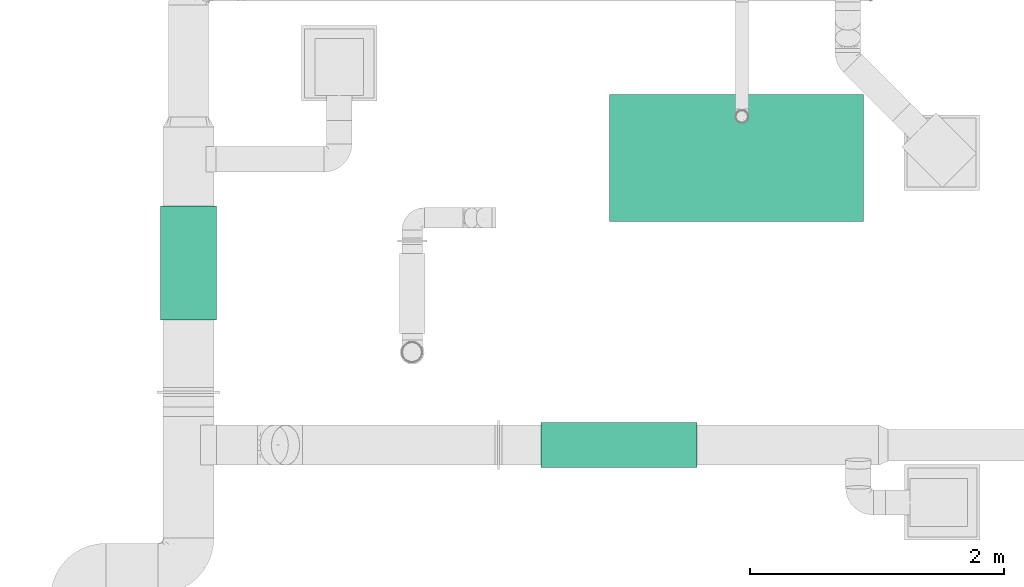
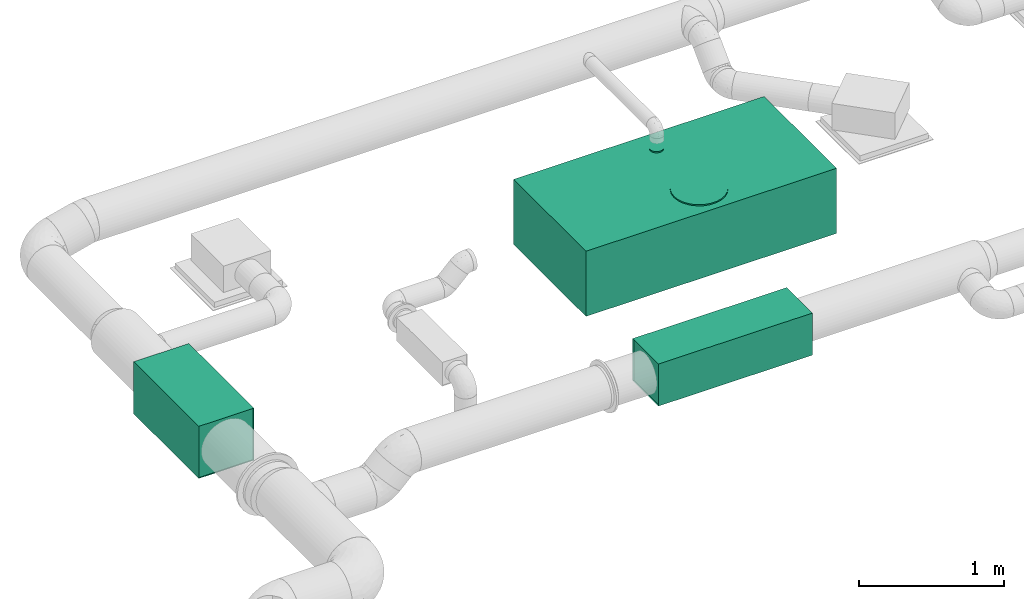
# One storey, part 8 of 16: 2 flow treatment devices, 1 flow fitting.
"""IFC2X3 building model written with IfcOpenShell, lengths in millimetres."""

import ifcopenshell
import ifcopenshell.guid

model = None  # the IFC model being written
_history = None  # IfcOwnerHistory: only IFC2X3 demands one
_inside = {}  # id of a spatial element -> (the spatial element, [elements in it])
_under = {}  # id of a project, library or spatial element -> (it, [spatial elements below it])
_declared = {}  # id of a project -> (the project, [libraries it declares])
_typed = {}  # id of a type object -> (the type object, [elements of that type])
_made_of = {}  # id of a material, layer set ... -> (it, [elements and type objects made of it])


def new_model(schema):
    """Start an empty IFC model of exactly this schema.

    Asked for "IFC4X3", IfcOpenShell would pick the latest addendum, in which some entities
    have other attributes; the version numbers below select the first issue.
    IFC2X3 requires an IfcOwnerHistory on every rooted entity: one is made here for all.
    """
    global model, _history
    if schema == "IFC4X3":
        model = ifcopenshell.file(schema_version=(4, 3, 0, 0))
    else:
        model = ifcopenshell.file(schema=schema)
    _inside.clear()
    _under.clear()
    _declared.clear()
    _typed.clear()
    _made_of.clear()
    _history = None
    if model.schema == "IFC2X3":
        org = make("IfcOrganization", Name="unknown")
        user = make(
            "IfcPersonAndOrganization",
            ThePerson=make("IfcPerson", FamilyName="unknown"),
            TheOrganization=org,
        )
        app = make(
            "IfcApplication",
            ApplicationDeveloper=org,
            Version="unknown",
            ApplicationFullName="unknown",
            ApplicationIdentifier="unknown",
        )
        _history = make(
            "IfcOwnerHistory",
            OwningUser=user,
            OwningApplication=app,
            ChangeAction="ADDED",
            CreationDate=0,
        )
    return model


def make(cls, **values):
    """One entity of the class cls with the attributes given. An attribute that is None is left unset."""
    return model.create_entity(
        cls, **{name: value for name, value in values.items() if value is not None}
    )


def entity(cls, *values):
    """Any entity or typed value of the class cls, its attributes in the order of the schema. None: left unset."""
    e = model.create_entity(cls)
    for i, value in enumerate(values):
        if value is not None:
            e[i] = value
    return e


def rooted(cls, **values):
    """An entity with a GlobalId (a new one), such as an element, a storey or a relation."""
    return make(cls, GlobalId=ifcopenshell.guid.new(), OwnerHistory=_history, **values)


def si_unit(unit_type, name, prefix=None):
    """IfcSIUnit, for example si_unit("LENGTHUNIT", "METRE", prefix="MILLI")."""
    return make("IfcSIUnit", UnitType=unit_type, Prefix=prefix, Name=name)


def converted_unit(unit_type, name, factor, base, dimensions=None, offset=None):
    """IfcConversionBasedUnit, such as the inch: factor (a typed value) times the base unit."""
    return make(
        "IfcConversionBasedUnit"
        if offset is None
        else "IfcConversionBasedUnitWithOffset",
        ConversionOffset=offset,
        Dimensions=None
        if dimensions is None
        else entity("IfcDimensionalExponents", *dimensions),
        UnitType=unit_type,
        Name=name,
        ConversionFactor=make(
            "IfcMeasureWithUnit", ValueComponent=factor, UnitComponent=base
        ),
    )


def derived_unit(unit_type, elements):
    """IfcDerivedUnit: a product of units, each with its exponent."""
    return make(
        "IfcDerivedUnit",
        Elements=[
            make("IfcDerivedUnitElement", Unit=unit, Exponent=power)
            for unit, power in elements
        ],
        UnitType=unit_type,
    )


def assignment(units):
    """IfcUnitAssignment: the units of a project."""
    return None if units is None else make("IfcUnitAssignment", Units=units)


def point(xyz):
    """IfcCartesianPoint."""
    return None if xyz is None else make("IfcCartesianPoint", Coordinates=xyz)


def direction(xyz):
    """IfcDirection."""
    return None if xyz is None else make("IfcDirection", DirectionRatios=xyz)


def frame(location, z_axis=None, x_axis=None):
    """IfcAxis2Placement3D, a coordinate frame: its origin and axes. An axis left out is left unset."""
    return make(
        "IfcAxis2Placement3D",
        Location=point(location),
        Axis=direction(z_axis),
        RefDirection=direction(x_axis),
    )


def origin_with_axes():
    """The frame at (0, 0, 0) with the z axis (0, 0, 1) and the x axis (1, 0, 0) written out."""
    return frame((0.0, 0.0, 0.0), z_axis=(0.0, 0.0, 1.0), x_axis=(1.0, 0.0, 0.0))


def place(relative_to, where):
    """IfcLocalPlacement: puts the frame where relative to a parent placement (None: the world)."""
    return make(
        "IfcLocalPlacement", PlacementRelTo=relative_to, RelativePlacement=where
    )


def context(
    kind, dimensions, precision=None, world=None, true_north=None, identifier=None
):
    """IfcGeometricRepresentationContext, for example the 3D "Model" context."""
    return make(
        "IfcGeometricRepresentationContext",
        ContextIdentifier=identifier,
        ContextType=kind,
        CoordinateSpaceDimension=dimensions,
        Precision=precision,
        WorldCoordinateSystem=world,
        TrueNorth=true_north,
    )


def subcontext(parent, identifier, kind, view, scale=None):
    """IfcGeometricRepresentationSubContext, for example "Body" below "Model"."""
    return make(
        "IfcGeometricRepresentationSubContext",
        ContextIdentifier=identifier,
        ContextType=kind,
        ParentContext=parent,
        TargetScale=scale,
        TargetView=view,
    )


def project(units=None, contexts=None):
    """IfcProject with its units and contexts."""
    return rooted(
        "IfcProject",
        Name="project",
        RepresentationContexts=contexts,
        UnitsInContext=assignment(units),
    )


def spatial(cls, under=None, at=None, **own):
    """A site, building, storey or space (cls), placed at a placement, below another one or the project."""
    s = rooted(cls, ObjectPlacement=at, **own)
    if under is not None:
        _under.setdefault(under.id(), (under, []))[1].append(s)
    return s


def faces_of(points, faces, orient=None, outer=None):
    """IfcFace entities. A face is a list of loops; a loop is a list of indices into points, from 0.

    orient and outer hold one flag for each loop. By default every Orientation is true, the
    first loop of a face is its IfcFaceOuterBound and the others are IfcFaceBound.
    """
    made = []
    for i, loops in enumerate(faces):
        bounds = []
        for j, loop in enumerate(loops):
            is_outer = j == 0 if outer is None else outer[i][j]
            bounds.append(
                make(
                    "IfcFaceOuterBound" if is_outer else "IfcFaceBound",
                    Bound=make("IfcPolyLoop", Polygon=[points[k] for k in loop]),
                    Orientation=True if orient is None else orient[i][j],
                )
            )
        made.append(make("IfcFace", Bounds=bounds))
    return made


def open_shell(faces, orient=None, outer=None):
    """The faces of one IfcOpenShell. surface_model builds it on its shared points."""
    return ("IfcOpenShell", faces, orient, outer)


def surface_model(cls, points, shells):
    """IfcFaceBasedSurfaceModel or IfcShellBasedSurfaceModel (cls): surfaces that need not close."""
    shared = [point(p) for p in points]
    made = [make(c, CfsFaces=faces_of(shared, fs, o, b)) for c, fs, o, b in shells]
    if cls == "IfcFaceBasedSurfaceModel":
        return make(cls, FbsmFaces=made)
    return make(cls, SbsmBoundary=made)


def shape(context_of_items, identifier, shape_type, items):
    """IfcShapeRepresentation: the items that make up one representation, for example the "Body"."""
    return make(
        "IfcShapeRepresentation",
        ContextOfItems=context_of_items,
        RepresentationIdentifier=identifier,
        RepresentationType=shape_type,
        Items=items,
    )


def source(mapping_origin, context_of_items, identifier, shape_type, items):
    """IfcRepresentationMap: a shape defined once, which mapped items show again and again."""
    return make(
        "IfcRepresentationMap",
        MappingOrigin=mapping_origin,
        MappedRepresentation=shape(context_of_items, identifier, shape_type, items),
    )


def transform(
    local_origin,
    x_axis=None,
    y_axis=None,
    z_axis=None,
    scale=None,
    scale2=None,
    scale3=None,
    uniform=True,
):
    """IfcCartesianTransformationOperator3D, or its non-uniform kind. x_axis, y_axis, z_axis: its Axis1, 2, 3."""
    if uniform:
        return make(
            "IfcCartesianTransformationOperator3D",
            Axis1=direction(x_axis),
            Axis2=direction(y_axis),
            LocalOrigin=point(local_origin),
            Scale=scale,
            Axis3=direction(z_axis),
        )
    return make(
        "IfcCartesianTransformationOperator3DnonUniform",
        Axis1=direction(x_axis),
        Axis2=direction(y_axis),
        LocalOrigin=point(local_origin),
        Scale=scale,
        Axis3=direction(z_axis),
        Scale2=scale2,
        Scale3=scale3,
    )


def mapped(mapping_source, mapping_target):
    """IfcMappedItem: shows the shape of a source again, moved by a transform."""
    return make(
        "IfcMappedItem", MappingSource=mapping_source, MappingTarget=mapping_target
    )


def made_of(thing, what):
    """Note that an element or type object is made of a material, layer set ...; save() writes the relation."""
    if what is not None:
        _made_of.setdefault(what.id(), (what, []))[1].append(thing)
    return thing


def type_object(cls, material=None, **own):
    """A type object (cls), such as IfcWallType, which elements share."""
    return made_of(rooted(cls, **own), material)


def element(
    cls,
    number,
    at=None,
    inside=None,
    cuts=None,
    type_object=None,
    material=None,
    context=None,
    identifier="Body",
    shape_type=None,
    held_by="IfcProductDefinitionShape",
    body=None,
    shapes=None,
    **own,
):
    """One element of the class cls, such as IfcWall. Its Tag is "e" and its number.

    at: its placement. inside: the storey or other place that contains it. cuts: it is an
    opening in that element (IfcRelVoidsElement). A single representation is given by context,
    identifier, shape_type and body (its items); several are given by shapes. held_by: the class
    of the entity that holds the representations. save() writes the other relations.
    """
    e = rooted(cls, Tag="e%d" % number, ObjectPlacement=at, **own)
    if body is not None:
        shapes = [shape(context, identifier, shape_type, body)]
    if shapes is not None:
        e.Representation = make(held_by, Representations=shapes)
    if inside is not None:
        _inside.setdefault(inside.id(), (inside, []))[1].append(e)
    if cuts is not None:
        rooted(
            "IfcRelVoidsElement", RelatingBuildingElement=cuts, RelatedOpeningElement=e
        )
    if type_object is not None:
        _typed.setdefault(type_object.id(), (type_object, []))[1].append(e)
    return made_of(e, material)


def aggregate(whole, parts):
    """IfcRelAggregates: a whole, such as a stair, and the parts it consists of."""
    return rooted("IfcRelAggregates", RelatingObject=whole, RelatedObjects=parts)


def save(model, path):
    """Write the relations noted so far, then the file.

    IfcRelAggregates (storeys below a building ...), IfcRelContainedInSpatialStructure (elements
    in a storey), IfcRelDefinesByType, IfcRelAssociatesMaterial and IfcRelDeclares: one each for
    every whole, place, type object, material and project.
    """
    for whole, parts in _under.values():
        aggregate(whole, parts)
    for where, things in _inside.values():
        rooted(
            "IfcRelContainedInSpatialStructure",
            RelatedElements=things,
            RelatingStructure=where,
        )
    for kind, things in _typed.values():
        rooted("IfcRelDefinesByType", RelatedObjects=things, RelatingType=kind)
    for what, things in _made_of.values():
        rooted("IfcRelAssociatesMaterial", RelatedObjects=things, RelatingMaterial=what)
    for by, libraries in _declared.values():
        rooted("IfcRelDeclares", RelatingContext=by, RelatedDefinitions=libraries)
    model.write(path)


model = new_model("IFC2X3")

# Units and contexts
model_context = context("Model", 3, precision=0.01, world=frame((0.0, 4.29681676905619e-09, 0.0)), true_north=direction((4.01073788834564e-13, 1.0)))
plan_context = context("Plan", 3, precision=0.01, world=frame((0.0, 4.29681676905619e-09, 0.0)), true_north=direction((4.01073788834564e-13, 1.0)))
body_context = subcontext(model_context, "Body", "Model", "MODEL_VIEW")
ifc_project = project(units=[converted_unit("PLANEANGLEUNIT", "DEGREE", entity("IfcPositiveLengthMeasure", 0.0174532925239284), si_unit("PLANEANGLEUNIT", "RADIAN"), dimensions=[0, 0, 0, 0, 0, 0, 0]), si_unit("AREAUNIT", "SQUARE_METRE"), si_unit("LENGTHUNIT", "METRE", prefix="MILLI"), si_unit("MASSUNIT", "GRAM", prefix="KILO"), si_unit("POWERUNIT", "WATT"), si_unit("PRESSUREUNIT", "PASCAL"), si_unit("FORCEUNIT", "NEWTON", prefix="KILO"), si_unit("ELECTRICVOLTAGEUNIT", "VOLT"), si_unit("ELECTRICCURRENTUNIT", "AMPERE"), si_unit("THERMODYNAMICTEMPERATUREUNIT", "DEGREE_CELSIUS"), si_unit("TIMEUNIT", "SECOND"), si_unit("VOLUMEUNIT", "CUBIC_METRE"), derived_unit("LINEARVELOCITYUNIT", [(si_unit("LENGTHUNIT", "METRE"), 1), (si_unit("TIMEUNIT", "SECOND"), -1)]), derived_unit("VOLUMETRICFLOWRATEUNIT", [(si_unit("VOLUMEUNIT", "CUBIC_METRE"), 1), (si_unit("TIMEUNIT", "SECOND"), -1)]), derived_unit("THERMALTRANSMITTANCEUNIT", [(si_unit("POWERUNIT", "WATT"), 1), (si_unit("THERMODYNAMICTEMPERATUREUNIT", "KELVIN"), -1), (si_unit("AREAUNIT", "SQUARE_METRE"), -1)]), derived_unit("SOUNDPRESSUREUNIT", [(si_unit("PRESSUREUNIT", "PASCAL"), 1)])], contexts=[model_context, plan_context])

# Site, building, storey
site_placement = place(None, frame((0.0, -4.29681676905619e-09, 0.0), z_axis=(0.0, 0.0, 1.0), x_axis=(1.0, 0.0, 0.0)))
site = spatial("IfcSite", under=ifc_project, at=site_placement, Name="ENGM", CompositionType="ELEMENT")
building_placement = place(site_placement, frame((0.0, 4.29681676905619e-09, 0.0), z_axis=(0.0, 0.0, 1.0), x_axis=(1.0, 0.0, 0.0)))
building = spatial("IfcBuilding", under=site, at=building_placement, Name="TH", CompositionType="ELEMENT")
storey_placement = place(building_placement, frame((0.0, 0.0, 210200.0), z_axis=(0.0, 0.0, 1.0), x_axis=(1.0, 0.0, 0.0)))
storey = spatial("IfcBuildingStorey", under=building, at=storey_placement, Name="Nivå F - 0,7 m", CompositionType="ELEMENT", Elevation=210200.0)

# Flow fitting
duct_fitting_type = type_object("IfcDuctFittingType", Name="+TH=360.030-AP9001-2000x1000x500", PredefinedType="BEND")
shared_shape_1 = source(origin_with_axes(), body_context, "Body", "SurfaceModel", [
    surface_model("IfcShellBasedSurfaceModel", [(2000.00002, 0.0, 540.0), (2000.00002, 1000.0, 540.0), (10.0, 1000.0, 540.0), (10.0, 0.0, 540.0), (10.0, 0.0, 0.0), (10.0, 1000.0, 0.0), (2000.00002, 1000.0, 0.0), (2000.00002, 0.0, 0.0), (0.0, 1000.0, 540.0), (0.0, 0.0, 540.0), (0.0, 0.0, 0.0), (0.0, 1000.0, 0.0), (1064.8935, 783.06681, 560.00001), (1039.8935, 776.36809, 560.00001), (1052.83443, 778.07177, 560.00001), (1052.83443, 874.66434, 560.00001), (1014.8935, 783.06681, 560.00001), (1083.19478, 801.36809, 560.00001), (1088.18976, 813.42717, 560.00001), (1089.8935, 826.36809, 560.00001), (1075.24883, 791.01276, 560.00001), (1088.18976, 839.30902, 560.00001), (1026.9525, 778.07177, 560.00001), (996.59222, 801.36809, 560.00001), (1004.53818, 791.01276, 560.00001), (991.59718, 813.42717, 560.00001), (989.8935, 826.36809, 560.00001), (1083.19478, 851.36809, 560.00001), (1075.24883, 861.72342, 560.00001), (1004.53818, 861.72342, 560.00001), (1064.8935, 869.66937, 560.00001), (1039.8935, 876.36809, 560.00001), (991.59718, 839.30902, 560.00001), (996.59222, 851.36809, 560.00001), (1014.8935, 869.66937, 560.00001), (1026.9525, 874.66434, 560.00001), (1052.83443, 874.66434, 550.0), (1004.53818, 861.72342, 550.0), (1039.8935, 876.36809, 550.0), (1075.24883, 861.72342, 550.0), (1064.8935, 869.66937, 550.0), (1083.19478, 851.36809, 550.0), (1088.18976, 839.30902, 550.0), (1014.8935, 783.06681, 550.0), (1014.8935, 869.66937, 550.0), (1026.9525, 874.66434, 550.0), (991.59718, 839.30902, 550.0), (996.59222, 851.36809, 550.0), (989.8935, 826.36809, 550.0), (1089.8935, 826.36809, 550.0), (1088.18976, 813.42717, 550.0), (1083.19478, 801.36809, 550.0), (1075.24883, 791.01276, 550.0), (1064.8935, 783.06681, 550.0), (1039.8935, 776.36809, 550.0), (1052.83443, 778.07177, 550.0), (996.59222, 801.36809, 550.0), (1004.53818, 791.01276, 550.0), (991.59718, 813.42717, 550.0), (1026.9525, 778.07177, 550.0), (1227.09123, 162.05537, 560.00001), (1120.92097, 67.99675, 560.00001), (1163.61291, 90.40323, 560.00001), (1199.70213, 122.37547, 560.00001), (1244.1883, 302.86313, 560.00001), (1244.1883, 207.13687, 560.00001), (1074.10733, 56.45823, 560.00001), (850.0, 255.0, 560.00001), (936.38703, 90.40323, 560.00001), (1025.89269, 56.45823, 560.00001), (979.07905, 67.99675, 560.00001), (900.29788, 122.37547, 560.00001), (855.81164, 207.13687, 560.00001), (872.90878, 162.05537, 560.00001), (1250.0, 255.0, 560.00001), (1227.09123, 347.94464, 560.00001), (1199.70213, 387.62452, 560.00001), (1163.61291, 419.59677, 560.00001), (1120.92097, 442.00325, 560.00001), (1074.10733, 453.54176, 560.00001), (872.90878, 347.94464, 560.00001), (855.81164, 302.86313, 560.00001), (900.29788, 387.62452, 560.00001), (979.07905, 442.00325, 560.00001), (936.38703, 419.59677, 560.00001), (1025.89269, 453.54176, 560.00001), (1244.1883, 302.86313, 550.0), (1074.10733, 453.54176, 550.0), (1120.92097, 442.00325, 550.0), (1163.61291, 419.59677, 550.0), (1199.70213, 387.62452, 550.0), (1227.09123, 347.94464, 550.0), (900.29788, 387.62452, 550.0), (979.07905, 442.00325, 550.0), (1025.89269, 453.54176, 550.0), (936.38703, 419.59677, 550.0), (872.90878, 347.94464, 550.0), (850.0, 255.0, 550.0), (855.81164, 302.86313, 550.0), (936.38703, 90.40323, 550.0), (1227.09123, 162.05537, 550.0), (1244.1883, 207.13687, 550.0), (1163.61291, 90.40323, 550.0), (1120.92097, 67.99675, 550.0), (1199.70213, 122.37547, 550.0), (1074.10733, 56.45823, 550.0), (855.81164, 207.13687, 550.0), (900.29788, 122.37547, 550.0), (872.90878, 162.05537, 550.0), (1025.89269, 56.45823, 550.0), (979.07905, 67.99675, 550.0), (1250.0, 255.0, 550.0), (0.0, 0.0, 550.0), (2000.00002, 0.0, 550.0), (2000.00002, 1000.0, 550.0), (0.0, 1000.0, 550.0)], [open_shell([[[0, 1, 2]], [[2, 3, 0]], [[4, 5, 6]], [[6, 7, 4]], [[2, 1, 5]], [[6, 5, 1]], [[3, 2, 4]], [[5, 4, 2]], [[0, 3, 7]], [[4, 7, 3]], [[1, 0, 6]], [[7, 6, 0]], [[1, 8, 9]], [[9, 0, 1]], [[7, 10, 11]], [[11, 6, 7]], [[8, 1, 6]], [[6, 11, 8]], [[1, 0, 7]], [[7, 6, 1]], [[0, 9, 10]], [[10, 7, 0]], [[9, 8, 11]], [[11, 10, 9]], [[12, 13, 14]], [[12, 15, 16]], [[17, 18, 19]], [[20, 17, 21]], [[12, 20, 15]], [[13, 16, 22]], [[13, 12, 16]], [[16, 23, 24]], [[23, 16, 25]], [[16, 26, 25]], [[19, 21, 17]], [[21, 27, 28]], [[21, 28, 15]], [[15, 29, 16]], [[15, 28, 30]], [[29, 15, 31]], [[32, 29, 33]], [[26, 16, 32]], [[31, 34, 29]], [[16, 29, 32]], [[35, 34, 31]], [[21, 15, 20]], [[36, 37, 38]], [[39, 36, 40]], [[39, 41, 42]], [[39, 42, 36]], [[43, 37, 36]], [[38, 44, 45]], [[38, 37, 44]], [[37, 46, 47]], [[46, 37, 43]], [[43, 48, 46]], [[42, 43, 36]], [[49, 50, 51]], [[51, 52, 42]], [[42, 53, 43]], [[42, 52, 53]], [[54, 53, 55]], [[56, 43, 57]], [[43, 56, 58]], [[43, 54, 59]], [[58, 48, 43]], [[53, 54, 43]], [[49, 51, 42]], [[58, 25, 48]], [[56, 23, 58]], [[16, 57, 43]], [[56, 57, 24]], [[22, 43, 59]], [[58, 23, 25]], [[25, 26, 48]], [[22, 16, 43]], [[24, 57, 16]], [[24, 23, 56]], [[13, 22, 59]], [[59, 54, 13]], [[55, 14, 54]], [[53, 12, 55]], [[17, 52, 51]], [[53, 52, 20]], [[18, 51, 50]], [[53, 20, 12]], [[12, 14, 55]], [[19, 18, 50]], [[17, 51, 18]], [[17, 20, 52]], [[49, 19, 50]], [[54, 14, 13]], [[42, 21, 49]], [[41, 27, 42]], [[30, 39, 40]], [[41, 39, 28]], [[15, 40, 36]], [[42, 27, 21]], [[21, 19, 49]], [[15, 30, 40]], [[28, 39, 30]], [[28, 27, 41]], [[31, 15, 36]], [[36, 38, 31]], [[45, 35, 38]], [[44, 34, 45]], [[33, 37, 47]], [[44, 37, 29]], [[32, 47, 46]], [[44, 29, 34]], [[34, 35, 45]], [[26, 32, 46]], [[33, 47, 32]], [[33, 29, 37]], [[48, 26, 46]], [[38, 35, 31]], [[60, 61, 62]], [[60, 62, 63]], [[64, 60, 65]], [[61, 60, 66]], [[60, 67, 68]], [[69, 68, 70]], [[68, 69, 66]], [[71, 68, 72]], [[72, 73, 71]], [[66, 60, 68]], [[68, 67, 72]], [[64, 65, 74]], [[64, 75, 76]], [[64, 76, 77]], [[78, 79, 64]], [[78, 64, 77]], [[64, 79, 67]], [[67, 80, 81]], [[80, 67, 82]], [[83, 84, 79]], [[82, 79, 84]], [[82, 67, 79]], [[83, 79, 85]], [[64, 67, 60]], [[86, 87, 88]], [[86, 88, 89]], [[90, 91, 86]], [[90, 86, 89]], [[87, 86, 92]], [[87, 93, 94]], [[87, 95, 93]], [[96, 92, 97]], [[97, 98, 96]], [[87, 92, 95]], [[92, 99, 97]], [[92, 86, 100]], [[101, 100, 86]], [[100, 99, 92]], [[102, 103, 100]], [[102, 100, 104]], [[105, 100, 103]], [[106, 107, 108]], [[107, 106, 99]], [[105, 109, 110]], [[110, 99, 105]], [[106, 97, 99]], [[100, 105, 99]], [[86, 111, 101]], [[106, 72, 97]], [[108, 73, 106]], [[68, 107, 99]], [[99, 110, 70]], [[108, 107, 71]], [[109, 69, 110]], [[106, 73, 72]], [[72, 67, 97]], [[70, 68, 99]], [[71, 107, 68]], [[71, 73, 108]], [[69, 70, 110]], [[109, 66, 69]], [[103, 61, 105]], [[102, 62, 103]], [[65, 100, 101]], [[101, 111, 65]], [[102, 104, 63]], [[104, 100, 60]], [[103, 62, 61]], [[61, 66, 105]], [[65, 60, 100]], [[65, 111, 74]], [[102, 63, 62]], [[104, 60, 63]], [[105, 66, 109]], [[86, 64, 111]], [[91, 75, 86]], [[77, 90, 89]], [[89, 88, 78]], [[91, 90, 76]], [[87, 79, 88]], [[86, 75, 64]], [[64, 74, 111]], [[78, 77, 89]], [[76, 90, 77]], [[76, 75, 91]], [[79, 78, 88]], [[87, 85, 79]], [[84, 93, 95]], [[94, 93, 85]], [[96, 98, 80]], [[82, 92, 96]], [[84, 95, 92]], [[81, 98, 97]], [[83, 85, 93]], [[83, 93, 84]], [[84, 92, 82]], [[96, 80, 82]], [[81, 80, 98]], [[67, 81, 97]], [[94, 85, 87]], [[112, 113, 114]], [[114, 115, 112]], [[8, 1, 0]], [[0, 9, 8]], [[114, 113, 0]], [[0, 1, 114]], [[115, 114, 8]], [[1, 8, 114]], [[112, 115, 8]], [[8, 9, 112]], [[113, 112, 0]], [[9, 0, 112]]])]),
])
flow_fitting_placement = place(storey_placement, frame((899876.00075, 484439.7728, 2074.34309000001), z_axis=(0.0, 0.0, 1.0), x_axis=(1.0, 0.0, 0.0)))
element("IfcFlowFitting", 1, at=flow_fitting_placement, inside=storey, type_object=duct_fitting_type, Name="+TH=360.030-AP9001-2000x1000x500", context=body_context, shape_type="MappedRepresentation", body=[
    mapped(shared_shape_1, transform((0.0, 0.0, 0.0), scale=1.0)),
])

# Flow treatment devices
duct_silencer_type_1 = type_object("IfcDuctSilencerType", Name="LKR-315-1200", PredefinedType="ROUND")
shared_shape_2 = source(origin_with_axes(), body_context, "Body", "SurfaceModel", [
    surface_model("IfcShellBasedSurfaceModel", [(-615.00003, -177.49999, -177.60001), (-615.00003, 177.49999, -177.60001), (615.00003, -177.49999, -177.60001), (615.00003, 177.49999, -177.60001), (615.00003, -177.49999, -177.4), (615.00003, 177.49999, -177.4), (-615.00003, -177.49999, -177.4), (-615.00003, 177.49999, -177.4), (-615.00003, -177.49999, 177.4), (-615.00003, 177.49999, 177.4), (615.00003, -177.49999, 177.4), (615.00003, 177.49999, 177.4), (615.00003, -177.49999, 177.60001), (615.00003, 177.49999, 177.60001), (-615.00003, -177.49999, 177.60001), (-615.00003, 177.49999, 177.60001), (-615.00003, 177.4, -177.49999), (615.00003, 177.4, -177.49999), (-615.00003, 177.4, 177.49999), (615.00003, 177.4, 177.49999), (-615.00003, 177.60001, 177.49999), (615.00003, 177.60001, 177.49999), (615.00003, 177.60001, -177.49999), (-615.00003, 177.60001, -177.49999), (-615.00003, -177.60001, -177.49999), (615.00003, -177.60001, -177.49999), (-615.00003, -177.60001, 177.49999), (615.00003, -177.60001, 177.49999), (-615.00003, -177.4, 177.49999), (615.00003, -177.4, 177.49999), (615.00003, -177.4, -177.49999), (-615.00003, -177.4, -177.49999), (604.9, 177.39998, 177.4), (604.9, 177.39998, -177.39998), (604.9, -177.4, -177.39998), (604.9, -177.4, 177.4), (605.09998, -177.4, 177.4), (605.09998, -177.4, -177.39998), (605.09998, 177.39998, 177.4), (605.09998, 177.39998, -177.39998), (-605.09998, 177.39998, 177.4), (-605.09998, 177.39998, -177.39998), (-605.09998, -177.4, -177.39998), (-605.09998, -177.4, 177.4), (-604.9, -177.4, 177.4), (-604.9, -177.4, -177.39998), (-604.9, 177.39998, 177.4), (-604.9, 177.39998, -177.39998)], [open_shell([[[0, 1, 2]], [[3, 2, 1]], [[4, 5, 6]], [[7, 6, 5]], [[1, 0, 6]], [[6, 7, 1]], [[0, 2, 6]], [[4, 6, 2]], [[2, 3, 5]], [[5, 4, 2]], [[3, 1, 5]], [[7, 5, 1]], [[8, 9, 10]], [[11, 10, 9]], [[12, 13, 14]], [[15, 14, 13]], [[9, 8, 14]], [[14, 15, 9]], [[8, 10, 14]], [[12, 14, 10]], [[10, 11, 13]], [[13, 12, 10]], [[11, 9, 13]], [[15, 13, 9]], [[16, 17, 18]], [[19, 18, 17]], [[20, 21, 22]], [[22, 23, 20]], [[19, 17, 22]], [[22, 21, 19]], [[18, 19, 20]], [[21, 20, 19]], [[16, 18, 20]], [[20, 23, 16]], [[17, 16, 22]], [[23, 22, 16]], [[24, 25, 26]], [[27, 26, 25]], [[28, 29, 30]], [[30, 31, 28]], [[27, 25, 30]], [[30, 29, 27]], [[26, 27, 28]], [[29, 28, 27]], [[24, 26, 28]], [[28, 31, 24]], [[25, 24, 30]], [[31, 30, 24]], [[32, 33, 34]], [[34, 35, 32]], [[36, 37, 38]], [[39, 38, 37]], [[34, 33, 39]], [[39, 37, 34]], [[35, 34, 37]], [[37, 36, 35]], [[32, 35, 36]], [[36, 38, 32]], [[33, 32, 38]], [[38, 39, 33]], [[40, 41, 42]], [[42, 43, 40]], [[44, 45, 46]], [[47, 46, 45]], [[42, 41, 47]], [[47, 45, 42]], [[43, 42, 45]], [[45, 44, 43]], [[40, 43, 44]], [[44, 46, 40]], [[41, 40, 46]], [[46, 47, 41]]])]),
])
flow_treatment_device_1_placement = place(storey_placement, frame((899948.31905, 482676.69257, 2861.60000000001), z_axis=(0.0, 0.0, 1.0), x_axis=(-1.0, 0.0, 0.0)))
element("IfcFlowTreatmentDevice", 2, at=flow_treatment_device_1_placement, inside=storey, type_object=duct_silencer_type_1, Name="LKR-315-1200", context=body_context, shape_type="MappedRepresentation", body=[
    mapped(shared_shape_2, transform((0.0, 0.0, 0.0), scale=1.0)),
])
duct_silencer_type_2 = type_object("IfcDuctSilencerType", Name="LKR-400-900", PredefinedType="ROUND")
shared_shape_3 = source(origin_with_axes(), body_context, "Body", "SurfaceModel", [
    surface_model("IfcShellBasedSurfaceModel", [(-450.0, -220.0, -220.09999), (-450.0, 220.0, -220.09999), (450.0, -220.0, -220.09999), (450.0, 220.0, -220.09999), (450.0, -220.0, -219.9), (450.0, 220.0, -219.9), (-450.0, 220.0, -219.9), (-450.0, -220.0, -219.9), (-450.0, -220.0, 219.9), (-450.0, 220.0, 219.9), (450.0, -220.0, 219.9), (450.0, 220.0, 219.9), (450.0, -220.0, 220.09999), (450.0, 220.0, 220.09999), (-450.0, 220.0, 220.09999), (-450.0, -220.0, 220.09999), (-450.0, 219.9, -220.0), (450.0, 219.9, -220.0), (450.0, 219.9, 220.0), (-450.0, 219.9, 220.0), (-450.0, 220.09999, 220.0), (450.0, 220.09999, 220.0), (450.0, 220.09999, -220.0), (-450.0, 220.09999, -220.0), (-450.0, -220.09999, -220.0), (450.0, -220.09999, -220.0), (450.0, -220.09999, 220.0), (-450.0, -220.09999, 220.0), (-450.0, -219.9, 220.0), (450.0, -219.9, 220.0), (450.0, -219.9, -220.0), (-450.0, -219.9, -220.0), (439.9, 219.89999, 219.9), (439.9, 219.89999, -219.89999), (439.9, -219.9, -219.89999), (439.9, -219.9, 219.9), (440.09999, -219.9, 219.9), (440.09999, -219.9, -219.89999), (440.09999, 219.89999, 219.9), (440.09999, 219.89999, -219.89999), (-440.09999, 219.89999, 219.9), (-440.09999, 219.89999, -219.89999), (-440.09999, -219.9, -219.89999), (-440.09999, -219.9, 219.9), (-439.9, -219.9, 219.9), (-439.9, -219.9, -219.89999), (-439.9, 219.89999, 219.9), (-439.9, 219.89999, -219.89999)], [open_shell([[[0, 1, 2]], [[3, 2, 1]], [[4, 5, 6]], [[6, 7, 4]], [[3, 1, 6]], [[6, 5, 3]], [[2, 3, 5]], [[5, 4, 2]], [[0, 2, 4]], [[4, 7, 0]], [[1, 0, 7]], [[7, 6, 1]], [[8, 9, 10]], [[11, 10, 9]], [[12, 13, 14]], [[14, 15, 12]], [[11, 9, 14]], [[14, 13, 11]], [[10, 11, 13]], [[13, 12, 10]], [[8, 10, 12]], [[12, 15, 8]], [[9, 8, 15]], [[15, 14, 9]], [[16, 17, 18]], [[18, 19, 16]], [[20, 21, 22]], [[22, 23, 20]], [[18, 17, 22]], [[22, 21, 18]], [[19, 18, 21]], [[21, 20, 19]], [[16, 19, 20]], [[20, 23, 16]], [[17, 16, 23]], [[23, 22, 17]], [[24, 25, 26]], [[26, 27, 24]], [[28, 29, 30]], [[30, 31, 28]], [[26, 25, 30]], [[30, 29, 26]], [[27, 26, 29]], [[29, 28, 27]], [[24, 27, 28]], [[28, 31, 24]], [[25, 24, 31]], [[31, 30, 25]], [[32, 33, 34]], [[34, 35, 32]], [[36, 37, 38]], [[39, 38, 37]], [[34, 33, 39]], [[39, 37, 34]], [[35, 34, 37]], [[37, 36, 35]], [[32, 35, 36]], [[36, 38, 32]], [[33, 32, 38]], [[38, 39, 33]], [[40, 41, 42]], [[42, 43, 40]], [[44, 45, 46]], [[47, 46, 45]], [[42, 41, 47]], [[47, 45, 42]], [[43, 42, 45]], [[45, 44, 43]], [[40, 43, 44]], [[44, 46, 40]], [[41, 40, 46]], [[46, 47, 41]]])]),
])
flow_treatment_device_2_placement = place(storey_placement, frame((896556.49216, 484111.47296, 2637.79999999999), z_axis=(0.0, 0.0, 1.0), x_axis=(0.0, -1.0, 0.0)))
element("IfcFlowTreatmentDevice", 3, at=flow_treatment_device_2_placement, inside=storey, type_object=duct_silencer_type_2, Name="LKR-400-900", context=body_context, shape_type="MappedRepresentation", body=[
    mapped(shared_shape_3, transform((0.0, 0.0, 0.0), scale=1.0)),
])

save(model, "model.ifc")
